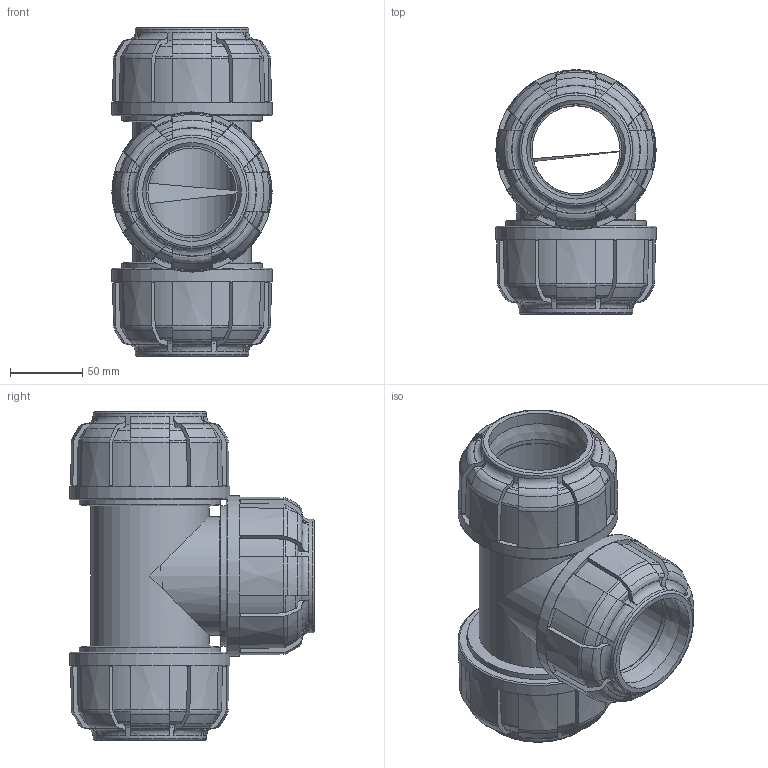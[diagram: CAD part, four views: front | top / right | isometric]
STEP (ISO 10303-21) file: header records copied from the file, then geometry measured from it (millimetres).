
FILE_DESCRIPTION( ( 'STEP AP214' ), '1' );
FILE_NAME( ' ', ' ', ( ' ' ), ( ' ' ), 'PSStep 11.0', 'VISI 17.0', ' ' );
FILE_SCHEMA( ( 'AUTOMOTIVE_DESIGN { 1 0 10303 214 1 1 1 1 }' ) );
Length unit declared in the file: millimetre
Products named in the file (4): 1; 2; 3; 4
Bounding box: 110.9 x 169.29 x 227.68 mm (x, y, z)
Volume: 1201713.9 mm3; surface area: 268581.9 mm2
Topology: 4 solids, 4 shells, 784 faces, 2233 edges, 1484 vertices
Faces by surface type: plane 348, cone 183, torus 162, cylinder 91
Full cylindrical faces by diameter (mm): 61 x1, 61.018 x1, 63.87 x3, 64.4 x3, 68.449 x3, 82 x2, 85.4 x3, 86 x6, 86.393 x3, 90.9 x3, 91.6 x3, 93 x3, 97.6 x3, 99 x3, 110.9 x3
Entity records: 35433 total; most frequent: CARTESIAN_POINT 10265, ORIENTED_EDGE 4248, DIRECTION 3518, EDGE_CURVE 2124, AXIS2_PLACEMENT_3D 1519, VERTEX_POINT 1452, B_SPLINE_CURVE_WITH_KNOTS 913, EDGE_LOOP 898
